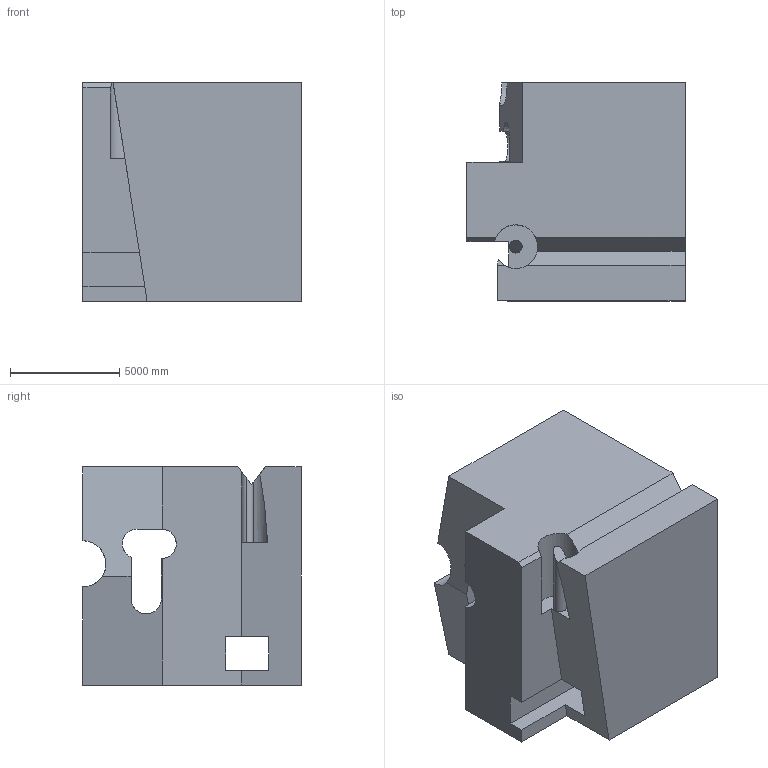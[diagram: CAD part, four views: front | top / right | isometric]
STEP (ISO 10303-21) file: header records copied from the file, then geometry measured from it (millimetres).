
FILE_DESCRIPTION (( 'STEP AP203' ), '1' );
FILE_NAME ('987.STEP', '2022-08-04T16:22:23', ( 'user' ), ( '' ), 'SwSTEP 2.0', 'SolidWorks 2021', '' );
FILE_SCHEMA (( 'CONFIG_CONTROL_DESIGN' ));
Length unit declared in the file: centimetre
Products named in the file (1): 987
Bounding box: 10000 x 10000 x 10000 mm (x, y, z)
Volume: 750482856382.4 mm3; surface area: 728810837.4 mm2
Topology: 1 solids, 1 shells, 49 faces, 147 edges, 98 vertices
Faces by surface type: plane 37, cylinder 12
Entity records: 1872 total; most frequent: CARTESIAN_POINT 508, ORIENTED_EDGE 294, DIRECTION 243, EDGE_CURVE 147, VECTOR 105, LINE 105, VERTEX_POINT 98, AXIS2_PLACEMENT_3D 69
